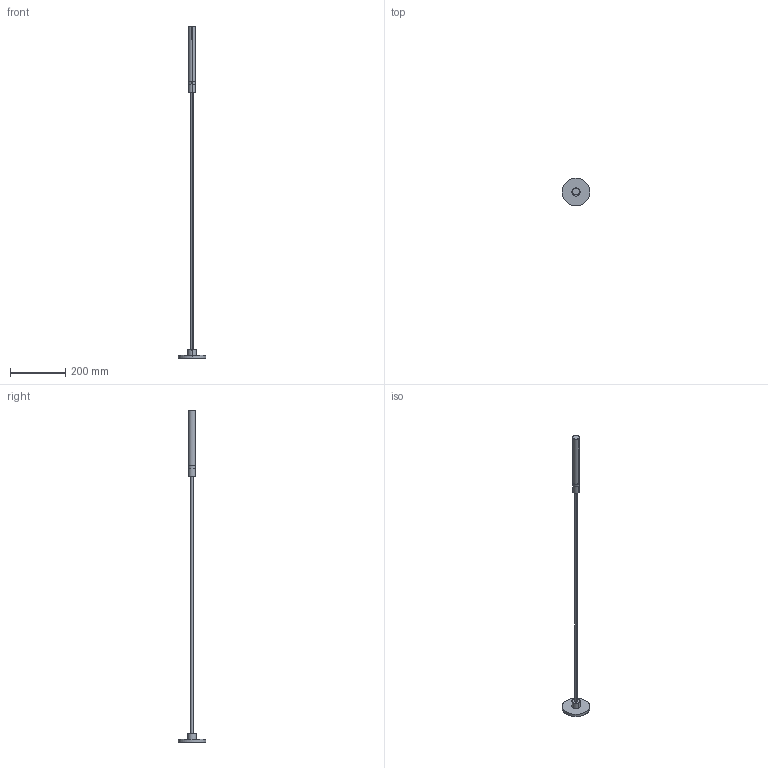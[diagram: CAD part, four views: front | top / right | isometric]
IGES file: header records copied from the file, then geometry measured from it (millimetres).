
Start section: SolidWorks IGES file using analytic representation for surfaces
Global section: file name: C:\Users\anna.bielnik\Desktop\ZOLA-LED\zola-LED-L.IGS; native system: SolidWorks 2023; preprocessor: SolidWorks 2023; author: anna.bielnik; date: 241128.133028; units: millimetre
Bounding box: 101 x 101 x 1205.2 mm (x, y, z)
Surface area: 71814.7 mm2 (no closed solid volume)
Topology: 0 solids, 0 shells, 24 faces, 600 edges, 600 vertices
Faces by surface type: revolution 14, bspline 10
